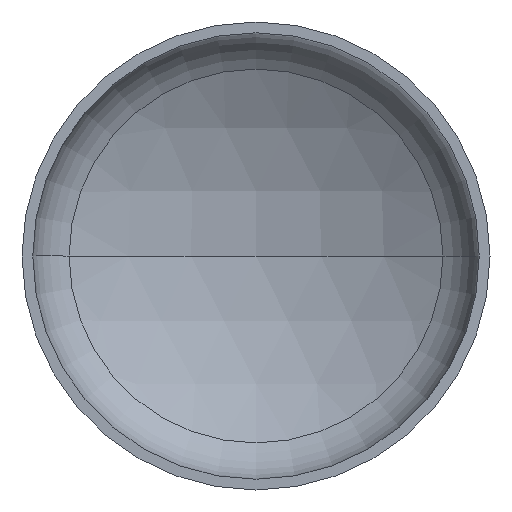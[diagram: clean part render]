
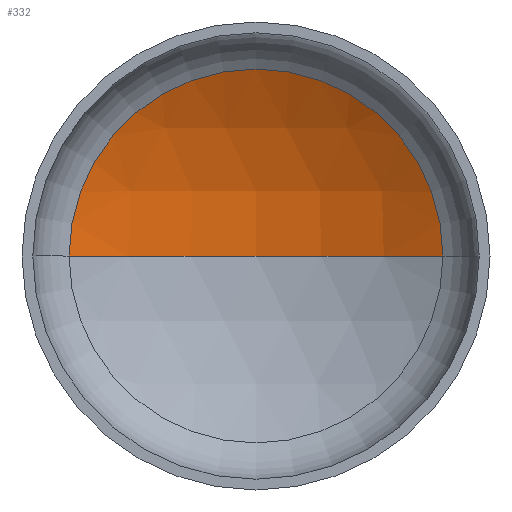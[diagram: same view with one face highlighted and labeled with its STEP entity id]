
A CAD part, front view. The second image highlights one B-rep face of the part: STEP entity #332.
In plain terms, the highlighted spherical face has radius 1600 mm.
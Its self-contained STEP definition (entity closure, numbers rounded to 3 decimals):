
#12 = CARTESIAN_POINT ( 'NONE',  ( 0., 622.25, 0. ) ) ;
#44 = CARTESIAN_POINT ( 'NONE',  ( -798.76, 408.606, 0. ) ) ;
#53 = FACE_OUTER_BOUND ( 'NONE', #73, .T. ) ;
#73 = EDGE_LOOP ( 'NONE', ( #397, #80, #277 ) ) ;
#75 = AXIS2_PLACEMENT_3D ( 'NONE', #193, #131, #125 ) ;
#80 = ORIENTED_EDGE ( 'NONE', *, *, #173, .T. ) ;
#81 = CIRCLE ( 'NONE', #75, 1600. ) ;
#110 = AXIS2_PLACEMENT_3D ( 'NONE', #388, #384, #122 ) ;
#117 = DIRECTION ( 'NONE',  ( 0., 0., -1. ) ) ;
#121 = VERTEX_POINT ( 'NONE', #216 ) ;
#122 = DIRECTION ( 'NONE',  ( 1., 0., 0. ) ) ;
#125 = DIRECTION ( 'NONE',  ( -1., 0., 0. ) ) ;
#131 = DIRECTION ( 'NONE',  ( 0., 0., -1. ) ) ;
#140 = EDGE_CURVE ( 'NONE', #121, #229, #241, .T. ) ;
#146 = VERTEX_POINT ( 'NONE', #12 ) ;
#167 = DIRECTION ( 'NONE',  ( 0., -1., 0. ) ) ;
#169 = DIRECTION ( 'NONE',  ( 1., 0., 0. ) ) ;
#170 = CARTESIAN_POINT ( 'NONE',  ( 0., 408.606, 0. ) ) ;
#173 = EDGE_CURVE ( 'NONE', #146, #121, #81, .T. ) ;
#193 = CARTESIAN_POINT ( 'NONE',  ( 0., -977.75, 0. ) ) ;
#211 = EDGE_CURVE ( 'NONE', #146, #229, #311, .T. ) ;
#213 = DIRECTION ( 'NONE',  ( -1., 0., 0. ) ) ;
#216 = CARTESIAN_POINT ( 'NONE',  ( 798.76, 408.606, 0. ) ) ;
#219 = SPHERICAL_SURFACE ( 'NONE', #300, 1600. ) ;
#229 = VERTEX_POINT ( 'NONE', #44 ) ;
#241 = CIRCLE ( 'NONE', #399, 798.76 ) ;
#277 = ORIENTED_EDGE ( 'NONE', *, *, #140, .T. ) ;
#300 = AXIS2_PLACEMENT_3D ( 'NONE', #335, #117, #213 ) ;
#311 = CIRCLE ( 'NONE', #110, 1600. ) ;
#332 = ADVANCED_FACE ( 'NONE', ( #53 ), #219, .F. ) ;
#335 = CARTESIAN_POINT ( 'NONE',  ( 0., -977.75, 0. ) ) ;
#384 = DIRECTION ( 'NONE',  ( 0., 0., 1. ) ) ;
#388 = CARTESIAN_POINT ( 'NONE',  ( 0., -977.75, 0. ) ) ;
#397 = ORIENTED_EDGE ( 'NONE', *, *, #211, .F. ) ;
#399 = AXIS2_PLACEMENT_3D ( 'NONE', #170, #167, #169 ) ;
